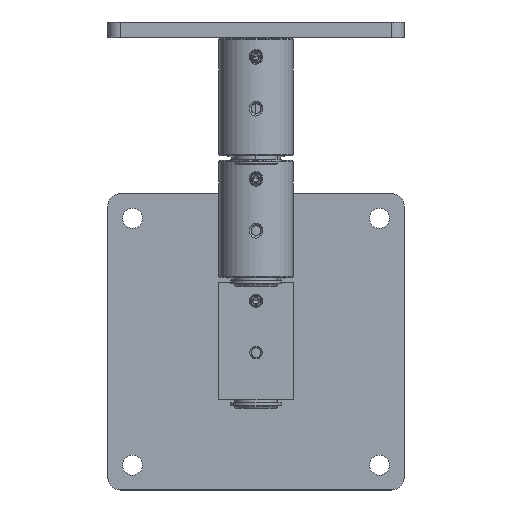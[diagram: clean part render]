
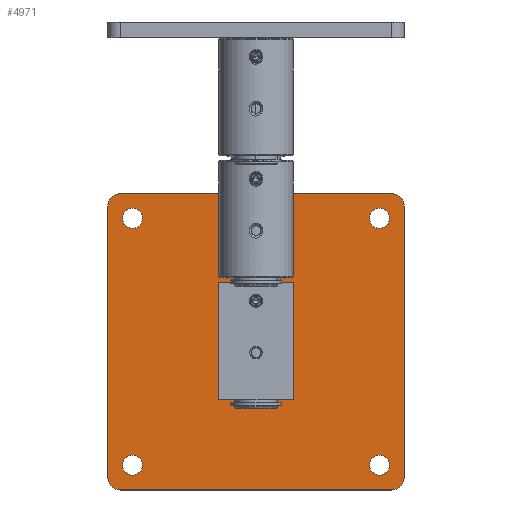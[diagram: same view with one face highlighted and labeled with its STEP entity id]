
A CAD part, top view. The second image highlights one B-rep face of the part: STEP entity #4971.
In plain terms, the highlighted planar face has unit normal (0, 0, 1).
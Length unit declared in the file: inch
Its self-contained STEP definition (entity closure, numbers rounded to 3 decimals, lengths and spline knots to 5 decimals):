
#24 = VERTEX_POINT ( 'NONE', #762 ) ;
#56 = VECTOR ( 'NONE', #187, 39.37008 ) ;
#87 = AXIS2_PLACEMENT_3D ( 'NONE', #4766, #7750, #1035 ) ;
#187 = DIRECTION ( 'NONE',  ( 1., 0., 0. ) ) ;
#198 = CARTESIAN_POINT ( 'NONE',  ( 0.5, -0.5, 0. ) ) ;
#206 = VERTEX_POINT ( 'NONE', #7850 ) ;
#219 = EDGE_CURVE ( 'NONE', #4172, #24, #290, .T. ) ;
#290 = CIRCLE ( 'NONE', #7337, 0.203 ) ;
#336 = EDGE_LOOP ( 'NONE', ( #8092, #1017 ) ) ;
#349 = CARTESIAN_POINT ( 'NONE',  ( 0., 0., 0. ) ) ;
#514 = EDGE_CURVE ( 'NONE', #2490, #7840, #8313, .T. ) ;
#762 = CARTESIAN_POINT ( 'NONE',  ( 5.703, -0.5, 0. ) ) ;
#793 = CARTESIAN_POINT ( 'NONE',  ( 0.297, -5.5, 0. ) ) ;
#961 = AXIS2_PLACEMENT_3D ( 'NONE', #9374, #7364, #7259 ) ;
#1004 = CARTESIAN_POINT ( 'NONE',  ( 5.5, -0.5, 0. ) ) ;
#1007 = CIRCLE ( 'NONE', #5556, 0.25 ) ;
#1017 = ORIENTED_EDGE ( 'NONE', *, *, #219, .F. ) ;
#1035 = DIRECTION ( 'NONE',  ( 1., 0., 0. ) ) ;
#1196 = CARTESIAN_POINT ( 'NONE',  ( 5.703, -5.5, 0. ) ) ;
#1197 = CARTESIAN_POINT ( 'NONE',  ( 0.25, -5.75, 0. ) ) ;
#1390 = EDGE_CURVE ( 'NONE', #4526, #7102, #5686, .T. ) ;
#1537 = EDGE_CURVE ( 'NONE', #5295, #206, #3913, .T. ) ;
#1557 = CARTESIAN_POINT ( 'NONE',  ( 0., -0.25, 0. ) ) ;
#1660 = ORIENTED_EDGE ( 'NONE', *, *, #3741, .F. ) ;
#1670 = VERTEX_POINT ( 'NONE', #1557 ) ;
#1698 = CARTESIAN_POINT ( 'NONE',  ( 0., -6., 0. ) ) ;
#1731 = DIRECTION ( 'NONE',  ( 0., 0., 1. ) ) ;
#1757 = FACE_OUTER_BOUND ( 'NONE', #3614, .T. ) ;
#1766 = DIRECTION ( 'NONE',  ( 1., 0., 0. ) ) ;
#1797 = VECTOR ( 'NONE', #1893, 39.37008 ) ;
#1869 = CARTESIAN_POINT ( 'NONE',  ( 0.25, 0., 0. ) ) ;
#1880 = VERTEX_POINT ( 'NONE', #3461 ) ;
#1893 = DIRECTION ( 'NONE',  ( -1., 0., 0. ) ) ;
#1916 = EDGE_CURVE ( 'NONE', #5655, #5326, #4451, .T. ) ;
#2010 = ORIENTED_EDGE ( 'NONE', *, *, #514, .F. ) ;
#2093 = CIRCLE ( 'NONE', #5866, 0.203 ) ;
#2170 = ORIENTED_EDGE ( 'NONE', *, *, #6122, .F. ) ;
#2260 = AXIS2_PLACEMENT_3D ( 'NONE', #198, #6036, #5266 ) ;
#2299 = DIRECTION ( 'NONE',  ( 0., 0., 1. ) ) ;
#2334 = CARTESIAN_POINT ( 'NONE',  ( 0.5, -5.5, 0. ) ) ;
#2490 = VERTEX_POINT ( 'NONE', #4078 ) ;
#2519 = CARTESIAN_POINT ( 'NONE',  ( 0.25, -6., 0. ) ) ;
#2521 = CIRCLE ( 'NONE', #961, 0.203 ) ;
#2613 = CARTESIAN_POINT ( 'NONE',  ( 5.5, -0.5, 0. ) ) ;
#2809 = ORIENTED_EDGE ( 'NONE', *, *, #1916, .F. ) ;
#2828 = EDGE_CURVE ( 'NONE', #7840, #2490, #2093, .T. ) ;
#2867 = AXIS2_PLACEMENT_3D ( 'NONE', #9585, #3529, #5162 ) ;
#2876 = CIRCLE ( 'NONE', #2260, 0.203 ) ;
#2919 = EDGE_LOOP ( 'NONE', ( #5142, #2010 ) ) ;
#2949 = CARTESIAN_POINT ( 'NONE',  ( 6., 0., 0. ) ) ;
#2973 = CARTESIAN_POINT ( 'NONE',  ( 5.5, -5.5, 0. ) ) ;
#3059 = ORIENTED_EDGE ( 'NONE', *, *, #5430, .T. ) ;
#3148 = EDGE_CURVE ( 'NONE', #24, #4172, #9104, .T. ) ;
#3461 = CARTESIAN_POINT ( 'NONE',  ( 0., -5.75, 0. ) ) ;
#3494 = AXIS2_PLACEMENT_3D ( 'NONE', #2334, #3865, #6809 ) ;
#3529 = DIRECTION ( 'NONE',  ( 0., 0., 1. ) ) ;
#3533 = VECTOR ( 'NONE', #4155, 39.37008 ) ;
#3552 = DIRECTION ( 'NONE',  ( 1., 0., 0. ) ) ;
#3614 = EDGE_LOOP ( 'NONE', ( #7350, #3059, #6508, #7830, #8411, #4352, #7690, #7581 ) ) ;
#3665 = AXIS2_PLACEMENT_3D ( 'NONE', #9046, #5454, #3886 ) ;
#3707 = EDGE_LOOP ( 'NONE', ( #1660, #2170 ) ) ;
#3741 = EDGE_CURVE ( 'NONE', #6553, #6825, #2876, .T. ) ;
#3798 = EDGE_CURVE ( 'NONE', #5708, #1670, #7895, .T. ) ;
#3865 = DIRECTION ( 'NONE',  ( 0., 0., 1. ) ) ;
#3879 = DIRECTION ( 'NONE',  ( 1., 0., 0. ) ) ;
#3886 = DIRECTION ( 'NONE',  ( 1., 0., 0. ) ) ;
#3913 = LINE ( 'NONE', #1698, #56 ) ;
#3946 = LINE ( 'NONE', #4098, #3533 ) ;
#4013 = CARTESIAN_POINT ( 'NONE',  ( 0.703, -0.5, 0. ) ) ;
#4078 = CARTESIAN_POINT ( 'NONE',  ( 5.297, -5.5, 0. ) ) ;
#4098 = CARTESIAN_POINT ( 'NONE',  ( 0., 0., 0. ) ) ;
#4155 = DIRECTION ( 'NONE',  ( 0., -1., 0. ) ) ;
#4172 = VERTEX_POINT ( 'NONE', #8487 ) ;
#4247 = EDGE_CURVE ( 'NONE', #5326, #5655, #9444, .T. ) ;
#4253 = DIRECTION ( 'NONE',  ( 1., 0., 0. ) ) ;
#4328 = CIRCLE ( 'NONE', #7920, 0.25 ) ;
#4352 = ORIENTED_EDGE ( 'NONE', *, *, #1390, .T. ) ;
#4451 = CIRCLE ( 'NONE', #3494, 0.203 ) ;
#4526 = VERTEX_POINT ( 'NONE', #6047 ) ;
#4722 = DIRECTION ( 'NONE',  ( 0., 0., 1. ) ) ;
#4766 = CARTESIAN_POINT ( 'NONE',  ( 0., 0., 0. ) ) ;
#4889 = EDGE_CURVE ( 'NONE', #7102, #5708, #7842, .T. ) ;
#4944 = DIRECTION ( 'NONE',  ( 0., 0., 1. ) ) ;
#4971 = ADVANCED_FACE ( 'NONE', ( #6222, #8518, #9197, #8452, #1757 ), #7799, .T. ) ;
#4993 = DIRECTION ( 'NONE',  ( 0., 0., 1. ) ) ;
#5026 = VERTEX_POINT ( 'NONE', #5778 ) ;
#5142 = ORIENTED_EDGE ( 'NONE', *, *, #2828, .F. ) ;
#5162 = DIRECTION ( 'NONE',  ( 1., 0., 0. ) ) ;
#5266 = DIRECTION ( 'NONE',  ( 1., 0., 0. ) ) ;
#5279 = LINE ( 'NONE', #2949, #9569 ) ;
#5295 = VERTEX_POINT ( 'NONE', #2519 ) ;
#5303 = DIRECTION ( 'NONE',  ( 0., 0., 1. ) ) ;
#5326 = VERTEX_POINT ( 'NONE', #8438 ) ;
#5344 = EDGE_CURVE ( 'NONE', #1670, #1880, #3946, .T. ) ;
#5430 = EDGE_CURVE ( 'NONE', #1880, #5295, #4328, .T. ) ;
#5454 = DIRECTION ( 'NONE',  ( 0., 0., 1. ) ) ;
#5556 = AXIS2_PLACEMENT_3D ( 'NONE', #7509, #2299, #8900 ) ;
#5655 = VERTEX_POINT ( 'NONE', #793 ) ;
#5686 = CIRCLE ( 'NONE', #2867, 0.25 ) ;
#5687 = AXIS2_PLACEMENT_3D ( 'NONE', #1004, #1731, #9220 ) ;
#5708 = VERTEX_POINT ( 'NONE', #1869 ) ;
#5778 = CARTESIAN_POINT ( 'NONE',  ( 6., -5.75, 0. ) ) ;
#5807 = DIRECTION ( 'NONE',  ( 1., 0., 0. ) ) ;
#5866 = AXIS2_PLACEMENT_3D ( 'NONE', #7304, #4993, #4253 ) ;
#6036 = DIRECTION ( 'NONE',  ( 0., 0., 1. ) ) ;
#6047 = CARTESIAN_POINT ( 'NONE',  ( 6., -0.25, 0. ) ) ;
#6093 = ORIENTED_EDGE ( 'NONE', *, *, #4247, .F. ) ;
#6122 = EDGE_CURVE ( 'NONE', #6825, #6553, #2521, .T. ) ;
#6124 = EDGE_LOOP ( 'NONE', ( #6093, #2809 ) ) ;
#6222 = FACE_BOUND ( 'NONE', #6124, .T. ) ;
#6508 = ORIENTED_EDGE ( 'NONE', *, *, #1537, .T. ) ;
#6553 = VERTEX_POINT ( 'NONE', #4013 ) ;
#6588 = DIRECTION ( 'NONE',  ( 0., 0., 1. ) ) ;
#6809 = DIRECTION ( 'NONE',  ( 1., 0., 0. ) ) ;
#6825 = VERTEX_POINT ( 'NONE', #7353 ) ;
#7102 = VERTEX_POINT ( 'NONE', #9325 ) ;
#7136 = AXIS2_PLACEMENT_3D ( 'NONE', #8004, #4944, #3552 ) ;
#7259 = DIRECTION ( 'NONE',  ( 1., 0., 0. ) ) ;
#7269 = AXIS2_PLACEMENT_3D ( 'NONE', #2973, #5303, #3879 ) ;
#7304 = CARTESIAN_POINT ( 'NONE',  ( 5.5, -5.5, 0. ) ) ;
#7337 = AXIS2_PLACEMENT_3D ( 'NONE', #2613, #4722, #1766 ) ;
#7350 = ORIENTED_EDGE ( 'NONE', *, *, #5344, .T. ) ;
#7353 = CARTESIAN_POINT ( 'NONE',  ( 0.297, -0.5, 0. ) ) ;
#7364 = DIRECTION ( 'NONE',  ( 0., 0., 1. ) ) ;
#7440 = EDGE_CURVE ( 'NONE', #5026, #4526, #5279, .T. ) ;
#7509 = CARTESIAN_POINT ( 'NONE',  ( 5.75, -5.75, 0. ) ) ;
#7572 = DIRECTION ( 'NONE',  ( 0., 1., 0. ) ) ;
#7581 = ORIENTED_EDGE ( 'NONE', *, *, #3798, .T. ) ;
#7690 = ORIENTED_EDGE ( 'NONE', *, *, #4889, .T. ) ;
#7750 = DIRECTION ( 'NONE',  ( 0., 0., 1. ) ) ;
#7799 = PLANE ( 'NONE',  #87 ) ;
#7830 = ORIENTED_EDGE ( 'NONE', *, *, #8703, .T. ) ;
#7840 = VERTEX_POINT ( 'NONE', #1196 ) ;
#7842 = LINE ( 'NONE', #349, #1797 ) ;
#7850 = CARTESIAN_POINT ( 'NONE',  ( 5.75, -6., 0. ) ) ;
#7895 = CIRCLE ( 'NONE', #3665, 0.25 ) ;
#7920 = AXIS2_PLACEMENT_3D ( 'NONE', #1197, #6588, #5807 ) ;
#8004 = CARTESIAN_POINT ( 'NONE',  ( 0.5, -5.5, 0. ) ) ;
#8092 = ORIENTED_EDGE ( 'NONE', *, *, #3148, .F. ) ;
#8313 = CIRCLE ( 'NONE', #7269, 0.203 ) ;
#8411 = ORIENTED_EDGE ( 'NONE', *, *, #7440, .T. ) ;
#8438 = CARTESIAN_POINT ( 'NONE',  ( 0.703, -5.5, 0. ) ) ;
#8452 = FACE_BOUND ( 'NONE', #3707, .T. ) ;
#8487 = CARTESIAN_POINT ( 'NONE',  ( 5.297, -0.5, 0. ) ) ;
#8518 = FACE_BOUND ( 'NONE', #2919, .T. ) ;
#8703 = EDGE_CURVE ( 'NONE', #206, #5026, #1007, .T. ) ;
#8900 = DIRECTION ( 'NONE',  ( 1., 0., 0. ) ) ;
#9046 = CARTESIAN_POINT ( 'NONE',  ( 0.25, -0.25, 0. ) ) ;
#9104 = CIRCLE ( 'NONE', #5687, 0.203 ) ;
#9197 = FACE_BOUND ( 'NONE', #336, .T. ) ;
#9220 = DIRECTION ( 'NONE',  ( 1., 0., 0. ) ) ;
#9325 = CARTESIAN_POINT ( 'NONE',  ( 5.75, 0., 0. ) ) ;
#9374 = CARTESIAN_POINT ( 'NONE',  ( 0.5, -0.5, 0. ) ) ;
#9444 = CIRCLE ( 'NONE', #7136, 0.203 ) ;
#9569 = VECTOR ( 'NONE', #7572, 39.37008 ) ;
#9585 = CARTESIAN_POINT ( 'NONE',  ( 5.75, -0.25, 0. ) ) ;
